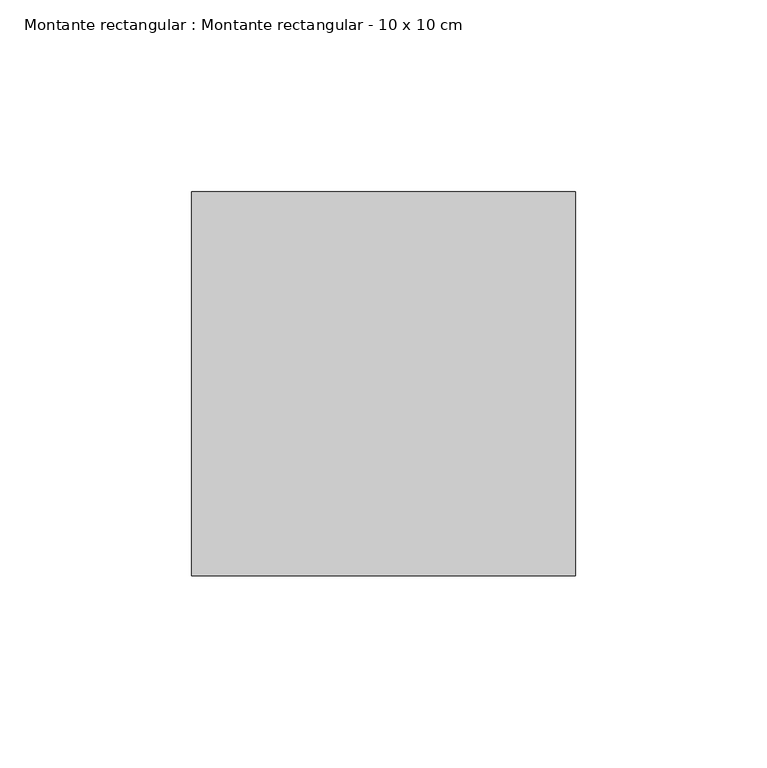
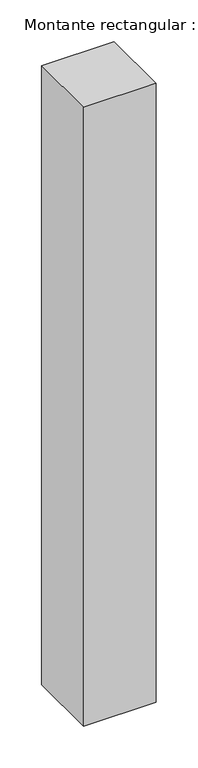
"""IFC4 building model written with IfcOpenShell, lengths in millimetres: member geometry, Montante rectangular : Montante rectangular - 10 x 10 cm."""

from ifc_helpers import new_model, si_unit, frame, origin, place, context, project, spatial, polyline, outline, extrude, source, transform, mapped, element, save


def montante_rectangular_montante_rectangular_10_x_10_cm_77bf927c(model_context):
    return source(origin(), model_context, "Body", "SweptSolid", [
        extrude(outline(polyline([(-100.0, -50.0), (-100.0, 50.0), (0.0, 50.0), (0.0, -50.0), (-100.0, -50.0)])), frame((0.0, 0.0, -901.93384), z_axis=(0.0, 0.0, 1.0), x_axis=(1.0, 0.0, 0.0)), (0.0, 0.0, 1.0), 901.93384),
    ])


if __name__ == "__main__":
    model = new_model("IFC4")
    model_context = context("Model", 3, world=origin())
    ifc_project = project(units=[si_unit("LENGTHUNIT", "METRE", prefix="MILLI")], contexts=[model_context])
    site = spatial("IfcSite", under=ifc_project)
    building = spatial("IfcBuilding", under=site)
    placement = place(None, origin())
    montante_rectangular_montante_rectangular_10_x_10_cm_shape = montante_rectangular_montante_rectangular_10_x_10_cm_77bf927c(model_context)
    element("IfcMember", 1, ObjectType="Montante rectangular : Montante rectangular - 10 x 10 cm", at=placement, inside=building, context=model_context, shape_type="MappedRepresentation", body=[
        mapped(montante_rectangular_montante_rectangular_10_x_10_cm_shape, transform((0.0, 0.0, 0.0), x_axis=(1.0, 0.0, 0.0), y_axis=(0.0, 1.0, 0.0), z_axis=(0.0, 0.0, 1.0))),
    ])
    save(model, "model.ifc")
